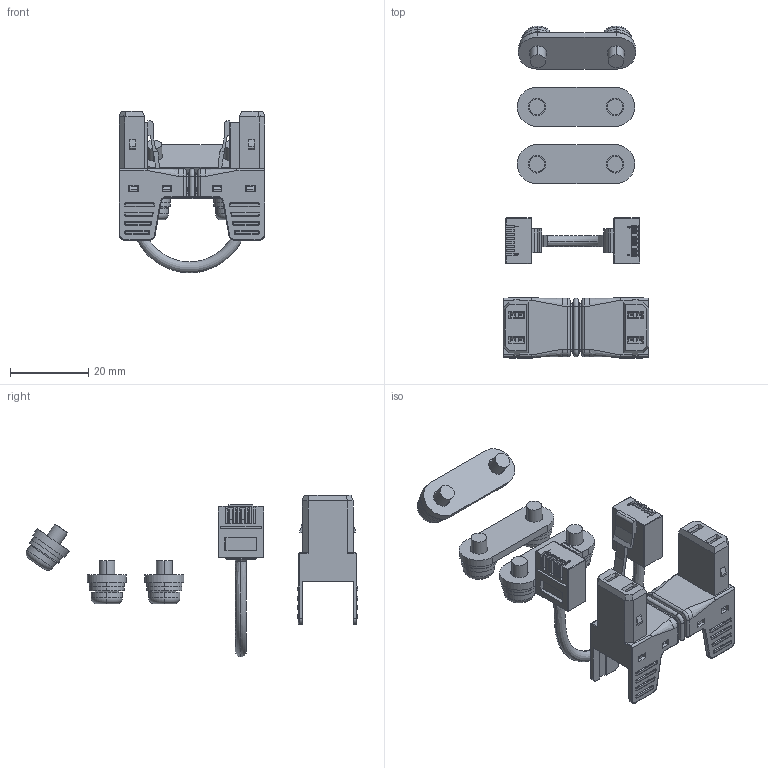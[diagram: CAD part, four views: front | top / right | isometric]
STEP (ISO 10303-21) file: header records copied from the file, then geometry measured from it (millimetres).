
FILE_DESCRIPTION((''),'2;1');
FILE_NAME('9500-1047_MULTIAXIS-KIT-STD','2018-08-21T11:39:45',('owenrh01'),(''),'CREO PARAMETRIC BY PTC INC, 2017260','CREO PARAMETRIC BY PTC INC, 2017260','');
FILE_SCHEMA(('AUTOMOTIVE_DESIGN { 1 0 10303 214 1 1 1 1 }'));
Products named in the file (1): 9500-1047_MULTIAXIS-KIT-STD
Bounding box: 37.3 x 84.85 x 41.38 mm (x, y, z)
Surface area: 17172.1 mm2 (no closed solid volume)
Topology: 0 solids, 62 shells, 1813 faces, 5806 edges, 3873 vertices
Faces by surface type: plane 1049, cylinder 573, torus 62, sphere 58, cone 45, bspline 18, extrusion 8
Entity records: 73933 total; most frequent: CARTESIAN_POINT 14044, DIRECTION 10762, ORIENTED_EDGE 9698, EDGE_CURVE 5748, VERTEX_POINT 3873, VECTOR 3732, LINE 3724, AXIS2_PLACEMENT_3D 3515
